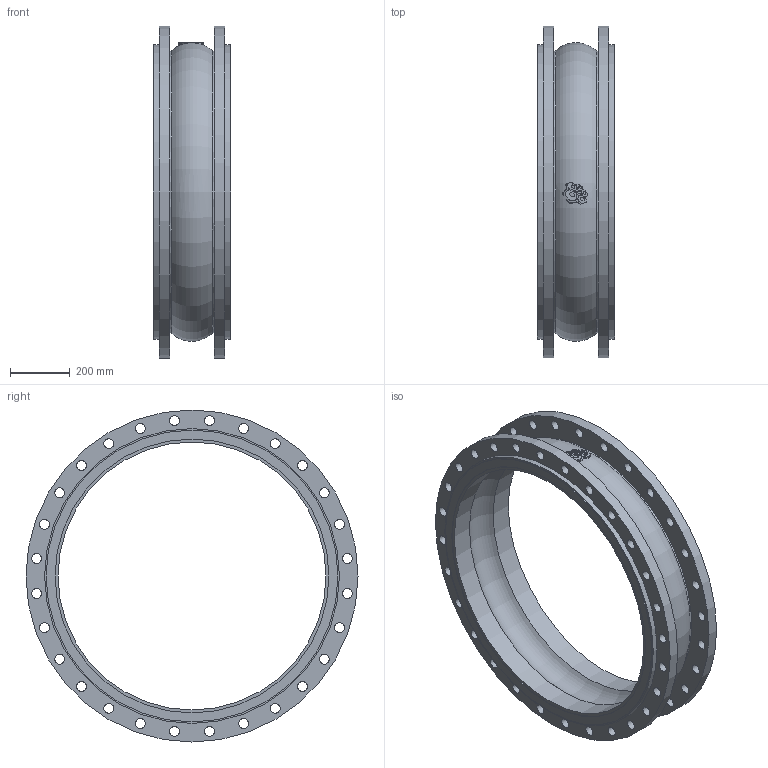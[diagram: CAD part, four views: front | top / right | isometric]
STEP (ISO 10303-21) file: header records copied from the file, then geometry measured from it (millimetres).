
FILE_DESCRIPTION(('STEP AP203'), '1');
FILE_NAME('3D_500-900-EPDM-FF', '', ('UNSPECIFIED'), ('UNSPECIFIED'), 'C3D Converter', 'C3D Toolkit', '');
FILE_SCHEMA(('CONFIG_CONTROL_DESIGN'));
Length unit declared in the file: millimetre
Bounding box: 260 x 1115 x 1115 mm (x, y, z)
Volume: 39626565.8 mm3; surface area: 3010659.2 mm2
Topology: 1 solids, 1 shells, 907 faces, 2667 edges, 1784 vertices
Faces by surface type: plane 831, cylinder 68, torus 8
Full cylindrical faces by diameter (mm): 33 x56, 900 x2, 920 x2, 950 x2, 980 x2, 990 x2, 1115 x2
Entity records: 39047 total; most frequent: CARTESIAN_POINT 9087, ORIENTED_EDGE 5194, DIRECTION 3760, EDGE_CURVE 2597, VERTEX_POINT 1784, LINE 1626, VECTOR 1626, EDGE_LOOP 1113
